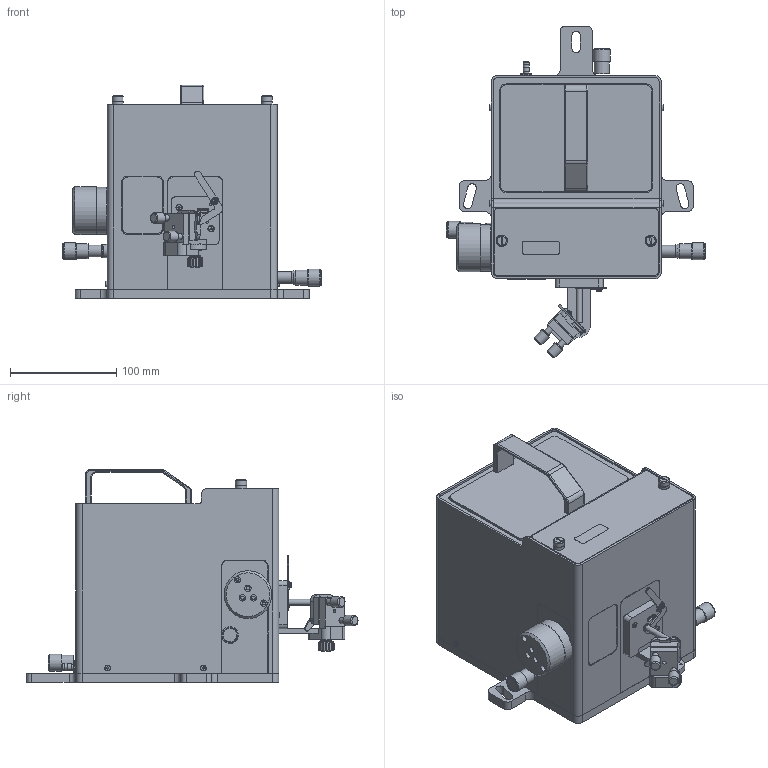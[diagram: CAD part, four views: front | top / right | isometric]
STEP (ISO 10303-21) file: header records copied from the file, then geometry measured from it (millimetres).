
FILE_DESCRIPTION(/* description */ (''),/* implementation_level */ '2;1');
FILE_NAME(/* name */ 'V:\CAD-Daten\_Verpackung\Geräte-Dummys\PulseCheck NG50 - Dummy2.stp',/* time_stamp */ '2021-02-11T13:39:43+01:00',/* author */ ('thomas'),/* organization */ (''),/* preprocessor_version */ 'ST-DEVELOPER v18.1',/* originating_system */ 'Autodesk Inventor 2021',/* authorisation */ '');
FILE_SCHEMA (('AUTOMOTIVE_DESIGN { 1 0 10303 214 3 1 1 }'));
Products named in the file (1): PulseCheck NG50 - Dummy2_Shrinkwrap_1
Bounding box: 243.62 x 312.27 x 201.1 mm (x, y, z)
Surface area: 453215.1 mm2 (no closed solid volume)
Topology: 0 solids, 168 shells, 1233 faces, 4572 edges, 3470 vertices
Faces by surface type: plane 689, cylinder 377, bspline 65, cone 49, torus 35, sphere 18
Full cylindrical faces by diameter (mm): 1.2 x1, 1.57 x1, 2 x6, 2.1 x2, 3 x2, 3.048 x2, 3.242 x12, 3.302 x1, 3.5 x2, 3.7 x2, 4.917 x2, 5 x1, 5.5 x8, 6 x21, 7 x1, 8 x4, 9 x3, 9.2 x1, 10 x2, 10.56 x4, 11 x7, 11.2 x1, 12.5 x1, 12.7 x1, 12.8 x2, 13 x1, 14 x7, 16 x3, 44 x1, 45 x1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
Entity records: 51640 total; most frequent: CARTESIAN_POINT 12380, DIRECTION 8172, ORIENTED_EDGE 6851, EDGE_CURVE 4551, VERTEX_POINT 3470, AXIS2_PLACEMENT_3D 2760, LINE 2652, VECTOR 2652
